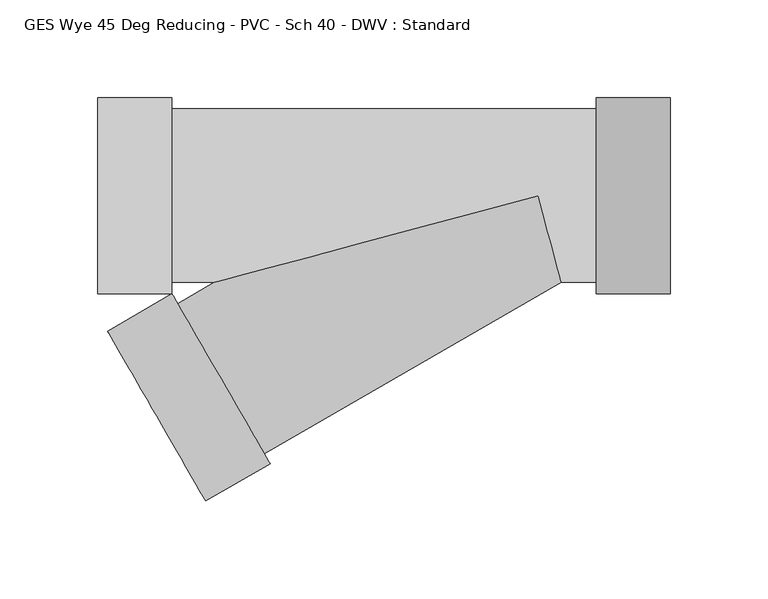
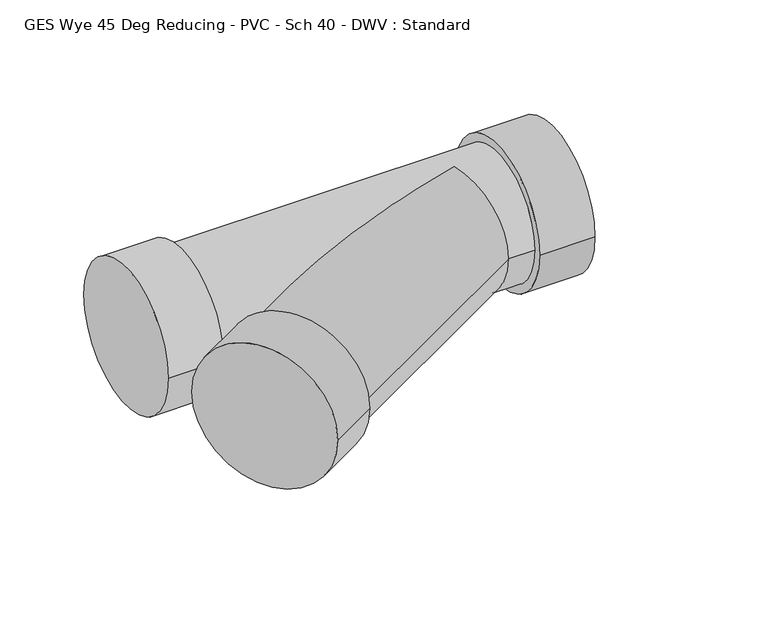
"""IFC4 building model written with IfcOpenShell, lengths in millimetres: pipe fitting geometry, GES Wye 45 Deg Reducing - PVC - Sch 40 - DWV : Standard."""

from ifc_helpers import new_model, si_unit, frame, origin, place, context, project, spatial, circle_curve, ellipse_curve, source, transform, mapped, element, save
from ifc_brep_helpers import plane_surface, cylinder_surface, advanced_brep


def ges_wye_45_deg_reducing_pvc_sch_40_dwv_standard_f9c3620a(model_context):
    return source(origin(), model_context, "Body", "AdvancedBrep", [
        advanced_brep(
        [(-187.5975051, 50.2666, 0.0), (-187.5975051, -50.2666, 0.0), (-187.5975051, 44.45, 0.0), (-187.5975051, -44.45, 0.0), (-225.6975051, 50.2666, 0.0), (-225.6975051, -50.2666, 0.0), (29.6902188, -50.2666, 0.0), (29.6902188, 50.2666, 0.0), (29.6902188, -44.45, 0.0), (29.6902188, 44.45, 0.0), (67.7902188, -50.2666, 0.0), (67.7902188, 50.2666, 0.0), (11.9103416, -44.45, 0.0), (0.0, 0.0, -44.45), (-165.8896584, -44.45, 0.0), (0.0, 0.0, 44.45), (-184.6892051, -55.3039234, 0.0), (-140.2392051, -132.2935818, 0.0), (-187.5975051, -50.2666, 0.0), (-137.3309051, -137.3309051, 0.0), (-220.593073, -69.3166, 0.0), (-170.326473, -156.3809051, 0.0)],
        [
            (0, 1, circle_curve(frame((-187.5975051, 0.0, 0.0), z_axis=(1.0, 0.0, 0.0), x_axis=(0.0, -1.0, 0.0)), 50.2666)),
            (1, 0, circle_curve(frame((-187.5975051, 0.0, 0.0), z_axis=(1.0, 0.0, 0.0), x_axis=(0.0, -1.0, 0.0)), 50.2666)),
            (2, 3, circle_curve(frame((-187.5975051, 0.0, 0.0), z_axis=(-1.0, 0.0, 0.0), x_axis=(0.0, 0.0, -1.0)), 44.45)),
            (3, 2, circle_curve(frame((-187.5975051, 0.0, 0.0), z_axis=(-1.0, 0.0, 0.0), x_axis=(0.0, 0.0, 1.0)), 44.45)),
            (4, 5, circle_curve(frame((-225.6975051, 0.0, 0.0), z_axis=(-1.0, 0.0, 0.0), x_axis=(0.0, -1.0, 0.0)), 50.2666)),
            (5, 4, circle_curve(frame((-225.6975051, 0.0, 0.0), z_axis=(-1.0, 0.0, 0.0), x_axis=(0.0, -1.0, 0.0)), 50.2666)),
            (0, 4),
            (5, 1),
            (6, 7, circle_curve(frame((29.6902188, 0.0, 0.0), z_axis=(-1.0, 0.0, 0.0), x_axis=(0.0, 1.0, 0.0)), 50.2666)),
            (7, 6, circle_curve(frame((29.6902188, 0.0, 0.0), z_axis=(-1.0, 0.0, 0.0), x_axis=(0.0, 1.0, 0.0)), 50.2666)),
            (8, 9, circle_curve(frame((29.6902188, 0.0, 0.0), z_axis=(1.0, 0.0, 0.0), x_axis=(0.0, 0.0, -1.0)), 44.45)),
            (9, 8, circle_curve(frame((29.6902188, 0.0, 0.0), z_axis=(1.0, 0.0, 0.0), x_axis=(0.0, 0.0, 1.0)), 44.45)),
            (10, 11, circle_curve(frame((67.7902188, 0.0, 0.0), z_axis=(1.0, 0.0, 0.0), x_axis=(0.0, 1.0, 0.0)), 50.2666)),
            (11, 10, circle_curve(frame((67.7902188, 0.0, 0.0), z_axis=(1.0, 0.0, 0.0), x_axis=(0.0, 1.0, 0.0)), 50.2666)),
            (6, 10),
            (11, 7),
            (2, 9),
            (8, 12),
            (12, 13, ellipse_curve(frame((0.0, 0.0, 0.0), z_axis=(0.9659258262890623, 0.25881904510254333, 0.0), x_axis=(0.2588190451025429, -0.9659258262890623, 0.0)), 46.0180262, 44.45)),
            (13, 14, ellipse_curve(frame((0.0, 0.0, 0.0), z_axis=(-0.25881904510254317, 0.9659258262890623, 0.0), x_axis=(0.9659258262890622, 0.25881904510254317, 0.0)), 171.7416119, 44.45)),
            (14, 3),
            (14, 15, ellipse_curve(frame((0.0, 0.0, 0.0), z_axis=(-0.25881904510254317, 0.9659258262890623, 0.0), x_axis=(0.9659258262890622, 0.25881904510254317, 0.0)), 171.7416119, 44.45)),
            (15, 12, ellipse_curve(frame((0.0, 0.0, 0.0), z_axis=(0.9659258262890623, 0.25881904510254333, 0.0), x_axis=(0.2588190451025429, -0.9659258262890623, 0.0)), 46.0180262, 44.45)),
            (14, 16),
            (16, 17, circle_curve(frame((-162.4642051, -93.7987526, 0.0), z_axis=(0.8660254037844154, 0.5000000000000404, 0.0), x_axis=(0.5000000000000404, -0.8660254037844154, 0.0)), 44.45)),
            (17, 12),
            (17, 16, circle_curve(frame((-162.4642051, -93.7987526, 0.0), z_axis=(0.8660254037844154, 0.5000000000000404, 0.0), x_axis=(0.5000000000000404, -0.8660254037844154, 0.0)), 44.45)),
            (18, 19, circle_curve(frame((-162.4642051, -93.7987526, 0.0), z_axis=(0.8660254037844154, 0.5000000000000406, 0.0), x_axis=(0.5000000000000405, -0.8660254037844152, 0.0)), 50.2666)),
            (19, 18, circle_curve(frame((-162.4642051, -93.7987526, 0.0), z_axis=(0.8660254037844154, 0.5000000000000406, 0.0), x_axis=(0.5000000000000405, -0.8660254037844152, 0.0)), 50.2666)),
            (20, 21, circle_curve(frame((-195.459773, -112.8487526, 0.0), z_axis=(-0.8660254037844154, -0.5000000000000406, 0.0), x_axis=(0.5000000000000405, -0.8660254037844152, 0.0)), 50.2666)),
            (21, 20, circle_curve(frame((-195.459773, -112.8487526, 0.0), z_axis=(-0.8660254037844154, -0.5000000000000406, 0.0), x_axis=(0.5000000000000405, -0.8660254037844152, 0.0)), 50.2666)),
            (18, 20),
            (21, 19),
        ],
        [
            plane_surface(frame((-187.5975051, 0.0, 0.0), z_axis=(1.0, 0.0, 0.0), x_axis=(0.0, 0.0, 1.0))),
            plane_surface(frame((-225.6975051, 0.0, 0.0), z_axis=(-1.0, 0.0, 0.0), x_axis=(0.0, 0.0, 1.0))),
            cylinder_surface(frame((-187.5975051, 0.0, 0.0), z_axis=(1.0, 0.0, 0.0), x_axis=(0.0, -1.0, 0.0)), 50.2666),
            plane_surface(frame((29.6902188, 0.0, 0.0), z_axis=(-1.0, 0.0, 0.0), x_axis=(0.0, 0.0, 1.0))),
            plane_surface(frame((67.7902188, 0.0, 0.0), z_axis=(1.0, 0.0, 0.0), x_axis=(0.0, 0.0, 1.0))),
            cylinder_surface(frame((29.6902188, 0.0, 0.0), z_axis=(-1.0, 0.0, 0.0), x_axis=(0.0, 1.0, 0.0)), 50.2666),
            cylinder_surface(frame((-187.5975051, 0.0, 0.0), z_axis=(1.0, 0.0, 0.0), x_axis=(0.0, 0.0, -1.0)), 44.45),
            cylinder_surface(frame((-187.5975051, 0.0, 0.0), z_axis=(1.0, 0.0, 0.0), x_axis=(0.0, 0.0, 1.0)), 44.45),
            cylinder_surface(frame((0.0, 0.0, 0.0), z_axis=(0.8660254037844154, 0.5000000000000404, 0.0), x_axis=(0.5000000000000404, -0.8660254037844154, 0.0)), 44.45),
            plane_surface(frame((-162.4642051, -93.7987526, 0.0), z_axis=(0.8660254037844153, 0.5000000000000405, 0.0), x_axis=(0.0, 0.0, 1.0))),
            plane_surface(frame((-195.459773, -112.8487526, 0.0), z_axis=(-0.8660254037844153, -0.5000000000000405, 0.0), x_axis=(0.0, 0.0, 1.0))),
            cylinder_surface(frame((-162.4642051, -93.7987526, 0.0), z_axis=(0.8660254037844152, 0.5000000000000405, 0.0), x_axis=(0.5000000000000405, -0.8660254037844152, 0.0)), 50.2666),
        ],
        [
            (0, [[1, 2], [3, 4]]),
            (1, [[5, 6]]),
            (2, [[-1, 7, -6, 8]]),
            (2, [[-2, -8, -5, -7]]),
            (3, [[9, 10], [11, 12]]),
            (4, [[13, 14]]),
            (5, [[-9, 15, -14, 16]]),
            (5, [[-10, -16, -13, -15]]),
            (6, [[17, -11, 18, 19, 20, 21, -3]]),
            (7, [[-17, -4, -21, 22, 23, -18, -12]]),
            (8, [[24, 25, 26, -23, -22]]),
            (8, [[-24, -20, -19, -26, 27]]),
            (9, [[28, 29], [-25, -27]]),
            (10, [[30, 31]]),
            (11, [[-28, 32, -31, 33]]),
            (11, [[-29, -33, -30, -32]]),
        ],
    ),
    ])


if __name__ == "__main__":
    model = new_model("IFC4")
    model_context = context("Model", 3, world=origin())
    ifc_project = project(units=[si_unit("LENGTHUNIT", "METRE", prefix="MILLI")], contexts=[model_context])
    site = spatial("IfcSite", under=ifc_project)
    building = spatial("IfcBuilding", under=site)
    placement = place(None, origin())
    ges_wye_45_deg_reducing_pvc_sch_40_dwv_standard_shape = ges_wye_45_deg_reducing_pvc_sch_40_dwv_standard_f9c3620a(model_context)
    element("IfcPipeFitting", 1, ObjectType="GES Wye 45 Deg Reducing - PVC - Sch 40 - DWV : Standard", at=placement, inside=building, context=model_context, shape_type="MappedRepresentation", body=[
        mapped(ges_wye_45_deg_reducing_pvc_sch_40_dwv_standard_shape, transform((0.0, 0.0, 0.0), x_axis=(1.0, 0.0, 0.0), y_axis=(0.0, 1.0, 0.0), z_axis=(0.0, 0.0, 1.0))),
    ])
    save(model, "model.ifc")
